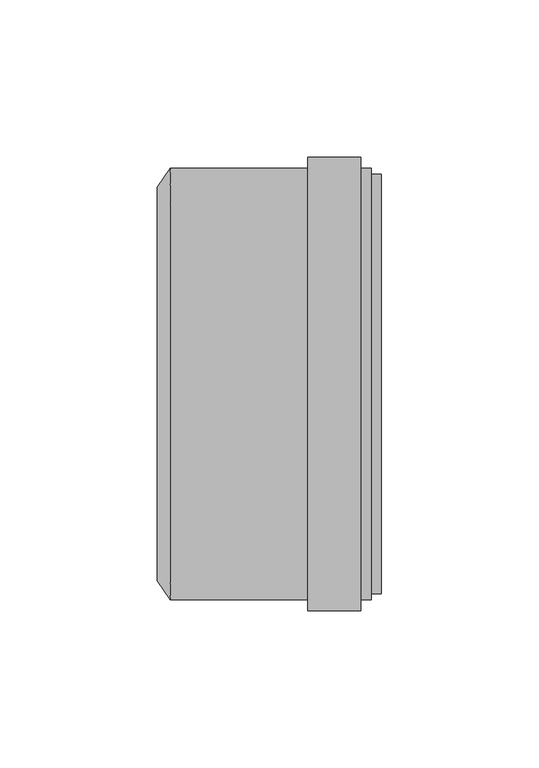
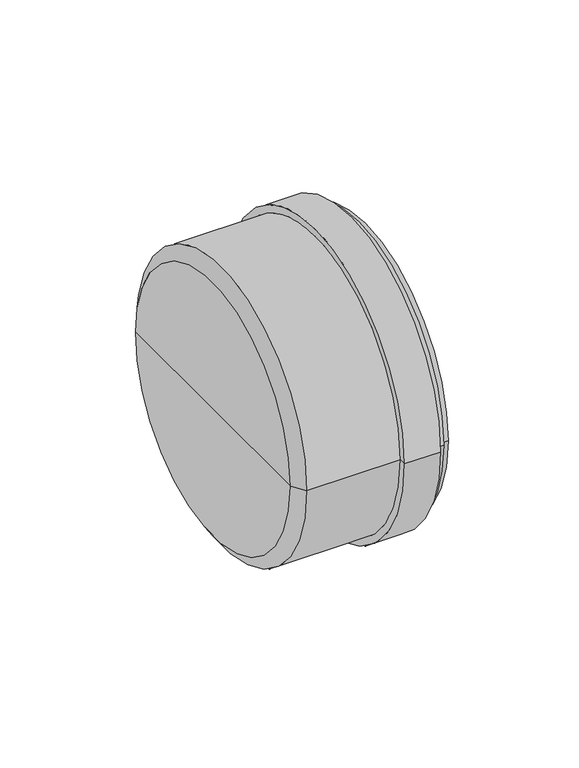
"""IFC4 building model written with IfcOpenShell, lengths in millimetres: pipe fitting geometry, pf_KGM_zatka : pf_KGM_zatka."""

from ifc_helpers import new_model, si_unit, frame, origin, place, context, project, spatial, polyline, circle_curve, source, transform, mapped, element, save
from ifc_brep_helpers import plane_surface, cylinder_surface, revolved_surface, advanced_brep


def pipe_fitting_40a91ca7(model_context):
    return source(origin(), model_context, "Body", "AdvancedBrep", [
        advanced_brep(
        [(-68.0, -62.5, 0.0), (-68.0, 62.5, 0.0), (-63.9, 68.6, 0.0), (-63.9, -68.6, 0.0), (-68.0, 0.0, 0.0), (0.0, -68.6, 0.0), (0.0, 68.6, 0.0), (0.0, 62.5, 0.0), (0.0, -62.5, 0.0), (-3.4, -68.6, 0.0), (-3.4, 68.6, 0.0), (-3.4, -72.0, 0.0), (-3.4, 72.0, 0.0), (-20.2, -72.0, 0.0), (-20.2, 72.0, 0.0), (-20.2, -68.6, 0.0), (-20.2, 68.6, 0.0), (-63.9, -62.5, 0.0), (-63.9, 62.5, 0.0), (-63.9, 0.0, 0.0)],
        [
            (0, 1, circle_curve(frame((-68.0, 0.0, 0.0), z_axis=(1.0, 0.0, 0.0), x_axis=(0.0, 1.0, 0.0)), 62.5)),
            (1, 2),
            (2, 3, circle_curve(frame((-63.9, 0.0, 0.0), z_axis=(-1.0, 0.0, 0.0), x_axis=(0.0, 1.0, 0.0)), 68.6)),
            (3, 0),
            (1, 0, circle_curve(frame((-68.0, 0.0, 0.0), z_axis=(1.0, 0.0, 0.0), x_axis=(0.0, 1.0, 0.0)), 62.5)),
            (3, 2, circle_curve(frame((-63.9, 0.0, 0.0), z_axis=(-1.0, 0.0, 0.0), x_axis=(0.0, 1.0, 0.0)), 68.6)),
            (4, 1),
            (0, 4),
            (5, 6, circle_curve(frame((0.0, 0.0, 0.0), z_axis=(1.0, 0.0, 0.0), x_axis=(0.0, 1.0, 0.0)), 68.6)),
            (6, 7),
            (7, 8, circle_curve(frame((0.0, 0.0, 0.0), z_axis=(-1.0, 0.0, 0.0), x_axis=(0.0, 1.0, 0.0)), 62.5)),
            (8, 5),
            (6, 5, circle_curve(frame((0.0, 0.0, 0.0), z_axis=(1.0, 0.0, 0.0), x_axis=(0.0, 1.0, 0.0)), 68.6)),
            (8, 7, circle_curve(frame((0.0, 0.0, 0.0), z_axis=(-1.0, 0.0, 0.0), x_axis=(0.0, 1.0, 0.0)), 62.5)),
            (9, 10, circle_curve(frame((-3.4, 0.0, 0.0), z_axis=(1.0, 0.0, 0.0), x_axis=(0.0, 1.0, 0.0)), 68.6)),
            (10, 6),
            (5, 9),
            (10, 9, circle_curve(frame((-3.4, 0.0, 0.0), z_axis=(1.0, 0.0, 0.0), x_axis=(0.0, 1.0, 0.0)), 68.6)),
            (11, 12, circle_curve(frame((-3.4, 0.0, 0.0), z_axis=(1.0, 0.0, 0.0), x_axis=(0.0, 1.0, 0.0)), 72.0)),
            (12, 10),
            (9, 11),
            (12, 11, circle_curve(frame((-3.4, 0.0, 0.0), z_axis=(1.0, 0.0, 0.0), x_axis=(0.0, 1.0, 0.0)), 72.0)),
            (13, 14, circle_curve(frame((-20.2, 0.0, 0.0), z_axis=(1.0, 0.0, 0.0), x_axis=(0.0, 1.0, 0.0)), 72.0)),
            (14, 12),
            (11, 13),
            (14, 13, circle_curve(frame((-20.2, 0.0, 0.0), z_axis=(1.0, 0.0, 0.0), x_axis=(0.0, 1.0, 0.0)), 72.0)),
            (15, 16, circle_curve(frame((-20.2, 0.0, 0.0), z_axis=(1.0, 0.0, 0.0), x_axis=(0.0, 1.0, 0.0)), 68.6)),
            (16, 14),
            (13, 15),
            (16, 15, circle_curve(frame((-20.2, 0.0, 0.0), z_axis=(1.0, 0.0, 0.0), x_axis=(0.0, 1.0, 0.0)), 68.6)),
            (2, 16),
            (15, 3),
            (17, 18, circle_curve(frame((-63.9, 0.0, 0.0), z_axis=(1.0, 0.0, 0.0), x_axis=(0.0, 1.0, 0.0)), 62.5)),
            (18, 19),
            (19, 17),
            (18, 17, circle_curve(frame((-63.9, 0.0, 0.0), z_axis=(1.0, 0.0, 0.0), x_axis=(0.0, 1.0, 0.0)), 62.5)),
            (7, 18),
            (17, 8),
        ],
        [
            revolved_surface(polyline([(-63.9, 68.6, 0.0), (-68.0, 62.5, 0.0)]), (-68.0, 0.0, 0.0), (-1.0, 0.0, 0.0)),
            plane_surface(frame((-68.0, 0.0, 0.0), z_axis=(-1.0, 0.0, 0.0), x_axis=(0.0, 1.0, 0.0))),
            plane_surface(frame((0.0, 0.0, 0.0), z_axis=(1.0, 0.0, 0.0), x_axis=(0.0, 1.0, 0.0))),
            cylinder_surface(frame((-68.0, 0.0, 0.0), z_axis=(-1.0, 0.0, 0.0), x_axis=(0.0, 1.0, 0.0)), 68.6),
            plane_surface(frame((-3.4, 0.0, 0.0), z_axis=(1.0, 0.0, 0.0), x_axis=(0.0, 1.0, 0.0))),
            cylinder_surface(frame((-68.0, 0.0, 0.0), z_axis=(-1.0, 0.0, 0.0), x_axis=(0.0, 1.0, 0.0)), 72.0),
            plane_surface(frame((-20.2, 0.0, 0.0), z_axis=(-1.0, 0.0, 0.0), x_axis=(0.0, 1.0, 0.0))),
            plane_surface(frame((-63.9, 0.0, 0.0), z_axis=(1.0, 0.0, 0.0), x_axis=(0.0, 1.0, 0.0))),
            revolved_surface(polyline([(-63.9, 62.5, 0.0), (0.0, 62.5, 0.0)]), (-68.0, 0.0, 0.0), (-1.0, 0.0, 0.0)),
        ],
        [
            (0, [[1, 2, 3, 4]]),
            (0, [[5, -4, 6, -2]]),
            (1, [[7, -1, 8]]),
            (1, [[-8, -5, -7]]),
            (2, [[9, 10, 11, 12]]),
            (2, [[13, -12, 14, -10]]),
            (3, [[15, 16, -9, 17]]),
            (3, [[18, -17, -13, -16]]),
            (4, [[19, 20, -15, 21]]),
            (4, [[22, -21, -18, -20]]),
            (5, [[23, 24, -19, 25]]),
            (5, [[26, -25, -22, -24]]),
            (6, [[27, 28, -23, 29]]),
            (6, [[30, -29, -26, -28]]),
            (3, [[-3, 31, -27, 32]]),
            (3, [[-6, -32, -30, -31]]),
            (7, [[33, 34, 35]]),
            (7, [[36, -35, -34]]),
            (8, [[-11, 37, -33, 38]]),
            (8, [[-14, -38, -36, -37]]),
        ],
    ),
        advanced_brep(
        [(-46.0, 0.0, 0.0), (-46.0, 62.5, 0.0), (-46.0, -62.5, 0.0), (3.2, -66.64, 0.0), (3.2, 66.64, 0.0), (3.2, 0.0, 0.0), (0.0, -66.64, 0.0), (0.0, 66.64, 0.0), (0.0, -63.44, 0.0), (0.0, 63.44, 0.0), (-42.0, -63.44, 0.0), (-42.0, 63.44, 0.0)],
        [
            (0, 1),
            (1, 2, circle_curve(frame((-46.0, 0.0, 0.0), z_axis=(-1.0, 0.0, 0.0), x_axis=(0.0, 1.0, 0.0)), 62.5)),
            (2, 0),
            (2, 1, circle_curve(frame((-46.0, 0.0, 0.0), z_axis=(-1.0, 0.0, 0.0), x_axis=(0.0, 1.0, 0.0)), 62.5)),
            (3, 4, circle_curve(frame((3.2, 0.0, 0.0), z_axis=(1.0, 0.0, 0.0), x_axis=(0.0, 1.0, 0.0)), 66.64)),
            (4, 5),
            (5, 3),
            (4, 3, circle_curve(frame((3.2, 0.0, 0.0), z_axis=(1.0, 0.0, 0.0), x_axis=(0.0, 1.0, 0.0)), 66.64)),
            (6, 7, circle_curve(frame((0.0, 0.0, 0.0), z_axis=(1.0, 0.0, 0.0), x_axis=(0.0, 1.0, 0.0)), 66.64)),
            (7, 4),
            (3, 6),
            (7, 6, circle_curve(frame((0.0, 0.0, 0.0), z_axis=(1.0, 0.0, 0.0), x_axis=(0.0, 1.0, 0.0)), 66.64)),
            (8, 9, circle_curve(frame((0.0, 0.0, 0.0), z_axis=(1.0, 0.0, 0.0), x_axis=(0.0, 1.0, 0.0)), 63.44)),
            (9, 7),
            (6, 8),
            (9, 8, circle_curve(frame((0.0, 0.0, 0.0), z_axis=(1.0, 0.0, 0.0), x_axis=(0.0, 1.0, 0.0)), 63.44)),
            (10, 11, circle_curve(frame((-42.0, 0.0, 0.0), z_axis=(1.0, 0.0, 0.0), x_axis=(0.0, 1.0, 0.0)), 63.44)),
            (11, 9),
            (8, 10),
            (11, 10, circle_curve(frame((-42.0, 0.0, 0.0), z_axis=(1.0, 0.0, 0.0), x_axis=(0.0, 1.0, 0.0)), 63.44)),
            (1, 11),
            (10, 2),
        ],
        [
            plane_surface(frame((-46.0, 0.0, 0.0), z_axis=(-1.0, 0.0, 0.0), x_axis=(0.0, 1.0, 0.0))),
            plane_surface(frame((3.2, 0.0, 0.0), z_axis=(1.0, 0.0, 0.0), x_axis=(0.0, 1.0, 0.0))),
            cylinder_surface(frame((-45.0241529, 0.0, 0.0), z_axis=(-1.0, 0.0, 0.0), x_axis=(0.0, 1.0, 0.0)), 66.64),
            plane_surface(frame((0.0, 0.0, 0.0), z_axis=(-1.0, 0.0, 0.0), x_axis=(0.0, 1.0, 0.0))),
            cylinder_surface(frame((-45.0241529, 0.0, 0.0), z_axis=(-1.0, 0.0, 0.0), x_axis=(0.0, 1.0, 0.0)), 63.44),
            revolved_surface(polyline([(-42.0, 63.44, 0.0), (-46.0, 62.5, 0.0)]), (-45.0241529, 0.0, 0.0), (-1.0, 0.0, 0.0)),
        ],
        [
            (0, [[1, 2, 3]]),
            (0, [[-3, 4, -1]]),
            (1, [[5, 6, 7]]),
            (1, [[8, -7, -6]]),
            (2, [[9, 10, -5, 11]]),
            (2, [[12, -11, -8, -10]]),
            (3, [[13, 14, -9, 15]]),
            (3, [[16, -15, -12, -14]]),
            (4, [[17, 18, -13, 19]]),
            (4, [[20, -19, -16, -18]]),
            (5, [[-2, 21, -17, 22]]),
            (5, [[-4, -22, -20, -21]]),
        ],
    ),
    ])


if __name__ == "__main__":
    model = new_model("IFC4")
    model_context = context("Model", 3, world=origin())
    ifc_project = project(units=[si_unit("LENGTHUNIT", "METRE", prefix="MILLI")], contexts=[model_context])
    site = spatial("IfcSite", under=ifc_project)
    building = spatial("IfcBuilding", under=site)
    placement = place(None, origin())
    pipe_fitting_shape = pipe_fitting_40a91ca7(model_context)
    element("IfcPipeFitting", 1, ObjectType="pf_KGM_zatka : pf_KGM_zatka", at=placement, inside=building, context=model_context, shape_type="MappedRepresentation", body=[
        mapped(pipe_fitting_shape, transform((0.0, 0.0, 0.0), x_axis=(1.0, 0.0, 0.0), y_axis=(0.0, 1.0, 0.0), z_axis=(0.0, 0.0, 1.0))),
    ])
    save(model, "model.ifc")
